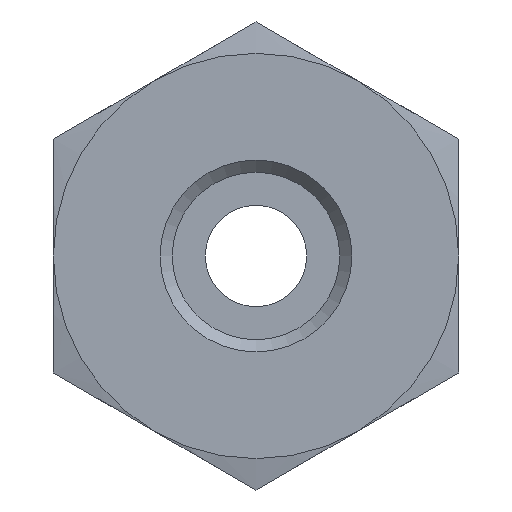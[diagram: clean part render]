
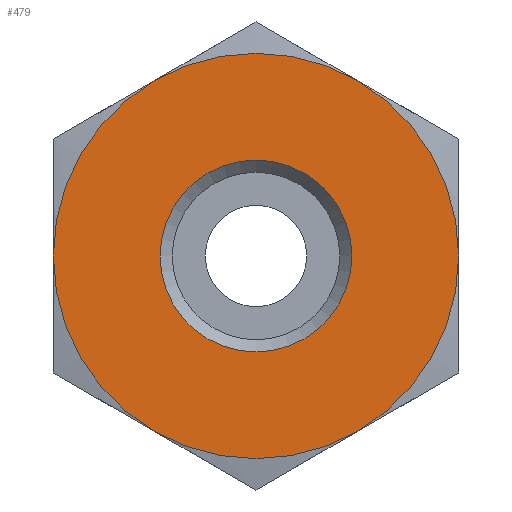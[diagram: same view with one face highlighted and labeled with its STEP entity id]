
A CAD part, front view. The second image highlights one B-rep face of the part: STEP entity #479.
In plain terms, the highlighted planar face has unit normal (0, -1, 0).
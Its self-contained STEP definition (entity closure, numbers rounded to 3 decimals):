
#40=FACE_BOUND('',#119,.T.);
#47=PLANE('',#552);
#82=FACE_OUTER_BOUND('',#118,.T.);
#118=EDGE_LOOP('',(#358,#359,#360,#361,#362,#363));
#119=EDGE_LOOP('',(#364));
#192=CIRCLE('',#547,2.367);
#196=CIRCLE('',#553,5.);
#197=CIRCLE('',#554,5.);
#198=CIRCLE('',#555,5.);
#199=CIRCLE('',#556,5.);
#200=CIRCLE('',#557,5.);
#201=CIRCLE('',#558,5.);
#222=VERTEX_POINT('',#777);
#226=VERTEX_POINT('',#789);
#227=VERTEX_POINT('',#790);
#228=VERTEX_POINT('',#792);
#229=VERTEX_POINT('',#794);
#230=VERTEX_POINT('',#796);
#231=VERTEX_POINT('',#798);
#269=EDGE_CURVE('',#222,#222,#192,.T.);
#275=EDGE_CURVE('',#226,#227,#196,.T.);
#276=EDGE_CURVE('',#227,#228,#197,.T.);
#277=EDGE_CURVE('',#228,#229,#198,.T.);
#278=EDGE_CURVE('',#229,#230,#199,.T.);
#279=EDGE_CURVE('',#230,#231,#200,.T.);
#280=EDGE_CURVE('',#231,#226,#201,.T.);
#358=ORIENTED_EDGE('',*,*,#275,.T.);
#359=ORIENTED_EDGE('',*,*,#276,.T.);
#360=ORIENTED_EDGE('',*,*,#277,.T.);
#361=ORIENTED_EDGE('',*,*,#278,.T.);
#362=ORIENTED_EDGE('',*,*,#279,.T.);
#363=ORIENTED_EDGE('',*,*,#280,.T.);
#364=ORIENTED_EDGE('',*,*,#269,.F.);
#479=ADVANCED_FACE('',(#82,#40),#47,.F.);
#547=AXIS2_PLACEMENT_3D('',#778,#637,#638);
#552=AXIS2_PLACEMENT_3D('',#788,#649,#650);
#553=AXIS2_PLACEMENT_3D('',#791,#651,#652);
#554=AXIS2_PLACEMENT_3D('',#793,#653,#654);
#555=AXIS2_PLACEMENT_3D('',#795,#655,#656);
#556=AXIS2_PLACEMENT_3D('',#797,#657,#658);
#557=AXIS2_PLACEMENT_3D('',#799,#659,#660);
#558=AXIS2_PLACEMENT_3D('',#800,#661,#662);
#637=DIRECTION('center_axis',(0.,-1.,0.));
#638=DIRECTION('ref_axis',(-1.,0.,0.));
#649=DIRECTION('center_axis',(0.,1.,0.));
#650=DIRECTION('ref_axis',(0.,0.,1.));
#651=DIRECTION('center_axis',(0.,-1.,0.));
#652=DIRECTION('ref_axis',(1.,0.,0.));
#653=DIRECTION('center_axis',(0.,-1.,0.));
#654=DIRECTION('ref_axis',(1.,0.,0.));
#655=DIRECTION('center_axis',(0.,-1.,0.));
#656=DIRECTION('ref_axis',(1.,0.,0.));
#657=DIRECTION('center_axis',(0.,-1.,0.));
#658=DIRECTION('ref_axis',(1.,0.,0.));
#659=DIRECTION('center_axis',(0.,-1.,0.));
#660=DIRECTION('ref_axis',(1.,0.,0.));
#661=DIRECTION('center_axis',(0.,-1.,0.));
#662=DIRECTION('ref_axis',(1.,0.,0.));
#777=CARTESIAN_POINT('',(2.367,0.,0.));
#778=CARTESIAN_POINT('Origin',(0.,0.,0.));
#788=CARTESIAN_POINT('Origin',(0.,0.,0.));
#789=CARTESIAN_POINT('',(-5.,0.,0.));
#790=CARTESIAN_POINT('',(-2.5,0.,-4.33));
#791=CARTESIAN_POINT('Origin',(0.,0.,0.));
#792=CARTESIAN_POINT('',(2.5,0.,-4.33));
#793=CARTESIAN_POINT('Origin',(0.,0.,0.));
#794=CARTESIAN_POINT('',(5.,0.,0.));
#795=CARTESIAN_POINT('Origin',(0.,0.,0.));
#796=CARTESIAN_POINT('',(2.5,0.,4.33));
#797=CARTESIAN_POINT('Origin',(0.,0.,0.));
#798=CARTESIAN_POINT('',(-2.5,0.,4.33));
#799=CARTESIAN_POINT('Origin',(0.,0.,0.));
#800=CARTESIAN_POINT('Origin',(0.,0.,0.));
